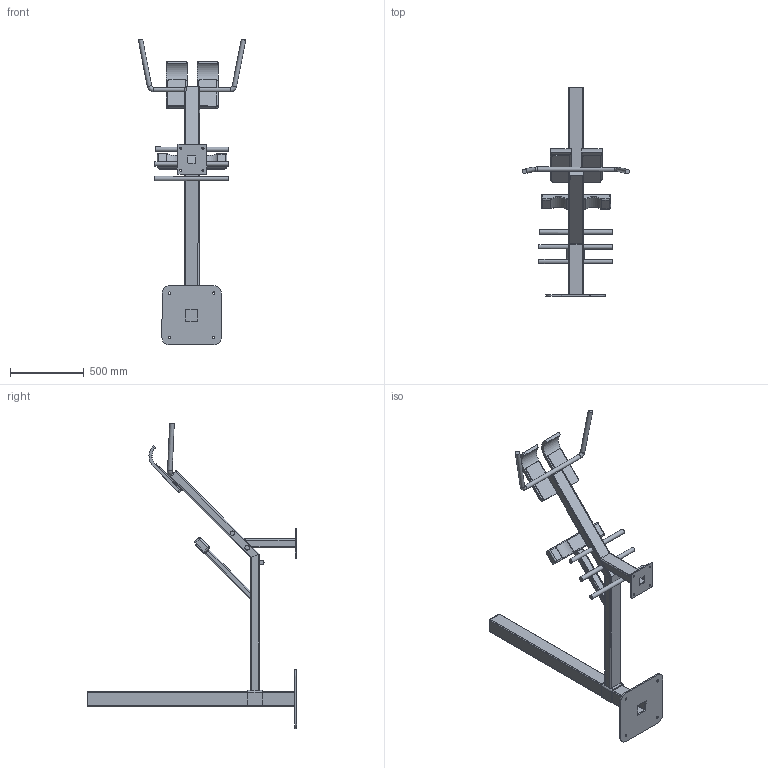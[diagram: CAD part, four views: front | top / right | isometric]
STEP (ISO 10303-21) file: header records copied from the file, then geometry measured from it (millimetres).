
FILE_DESCRIPTION(/* description */ (''),/* implementation_level */ '2;1');
FILE_NAME(/* name */ 'OG20_3D_Low.step',/* time_stamp */ '2025-11-11T15:58:43+02:00',/* author */ (''),/* organization */ (''),/* preprocessor_version */ 'ST-DEVELOPER v20.1',/* originating_system */ 'Autodesk Translation Framework v14.21.0.0',/* authorisation */ '');
FILE_SCHEMA (('AUTOMOTIVE_DESIGN { 1 0 10303 214 3 1 1 }'));
Length unit declared in the file: millimetre
Products named in the file (1): OG20_3D_Low
Bounding box: 726.1 x 1413.45 x 2067.65 mm (x, y, z)
Volume: 13221300.3 mm3; surface area: 3799017.7 mm2
Topology: 20 solids, 20 shells, 290 faces, 722 edges, 468 vertices
Faces by surface type: plane 142, cylinder 130, sphere 8, torus 6, bspline 4
Full cylindrical faces by diameter (mm): 14 x4, 16 x4, 30 x6, 30.5 x4
Entity records: 8992 total; most frequent: CARTESIAN_POINT 1777, DIRECTION 1542, ORIENTED_EDGE 1436, EDGE_CURVE 718, AXIS2_PLACEMENT_3D 553, VERTEX_POINT 468, LINE 436, VECTOR 436
